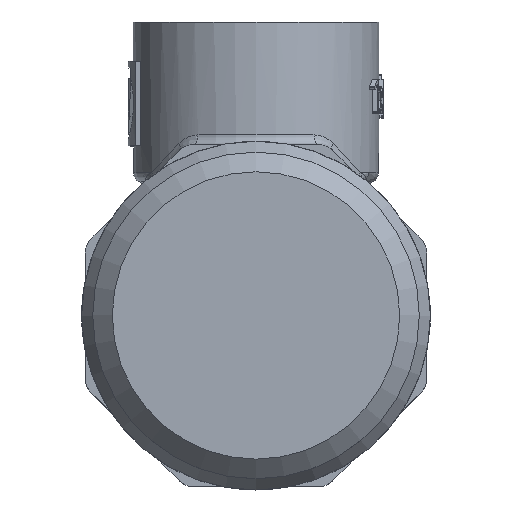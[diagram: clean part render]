
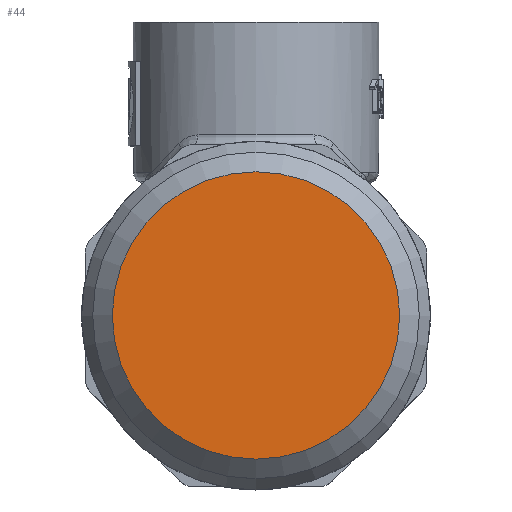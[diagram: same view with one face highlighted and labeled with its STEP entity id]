
A CAD part, top view. The second image highlights one B-rep face of the part: STEP entity #44.
In plain terms, the highlighted planar face has unit normal (0, 0, 1).
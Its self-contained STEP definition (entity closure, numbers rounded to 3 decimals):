
#44=ADVANCED_FACE('',(#248),#250,.T.);
#248=FACE_BOUND('',#249,.T.);
#249=EDGE_LOOP('',(#3756));
#250=PLANE('',#251);
#251=AXIS2_PLACEMENT_3D('',#252,#253,#254);
#252=CARTESIAN_POINT('',(0.,0.,30.));
#253=DIRECTION('',(0.,0.,1.));
#254=DIRECTION('',(0.,1.,0.));
#3756=ORIENTED_EDGE('',*,*,#4982,.T.);
#4982=EDGE_CURVE('',#5496,#5496,#5497,.F.);
#5496=VERTEX_POINT('',#6371);
#5497=CIRCLE('',#6372,14.625);
#6371=CARTESIAN_POINT('',(-14.625,-14.,30.));
#6372=AXIS2_PLACEMENT_3D('',#6373,#6374,#6375);
#6373=CARTESIAN_POINT('',(0.,-14.,30.));
#6374=DIRECTION('',(0.,0.,-1.));
#6375=DIRECTION('',(-1.,0.,0.));
